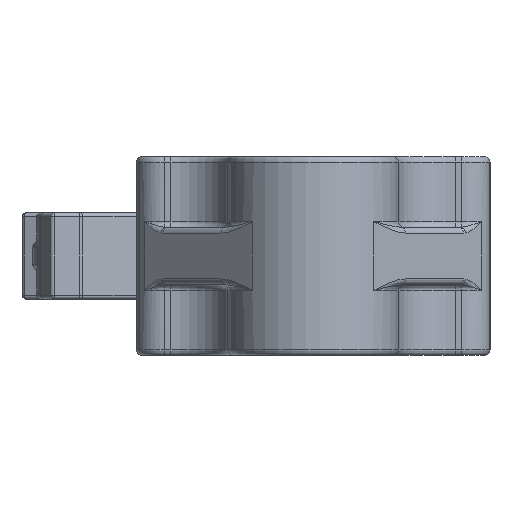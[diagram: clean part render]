
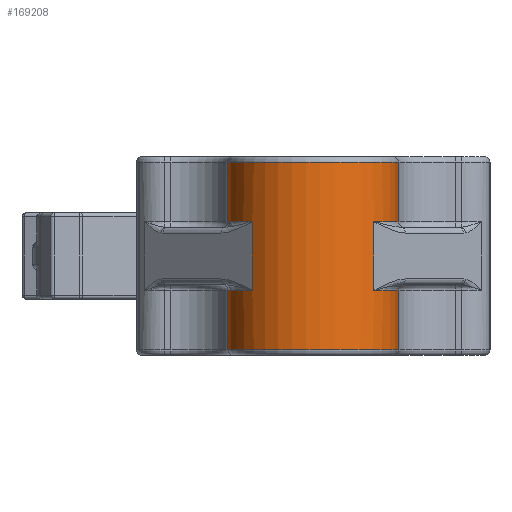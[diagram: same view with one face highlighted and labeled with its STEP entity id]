
A CAD part, left-side view. The second image highlights one B-rep face of the part: STEP entity #169208.
In plain terms, the highlighted cylindrical face has radius 4.5 mm (diameter 9 mm), a partial arc.
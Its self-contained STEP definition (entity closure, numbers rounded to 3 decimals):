
#61316=CARTESIAN_POINT('',(-99.184,-3.18,-1.8));
#61321=DIRECTION('',(0.,0.,1.));
#61322=VECTOR('',#61321,3.6);
#61323=CARTESIAN_POINT('',(-99.184,-3.18,-1.8));
#61324=LINE('',#61323,#61322);
#61522=CARTESIAN_POINT('',(-96.,0.,1.8));
#61523=DIRECTION('',(0.,0.,1.));
#61524=DIRECTION('',(-0.133,0.991,0.));
#61525=AXIS2_PLACEMENT_3D('',#61522,#61523,#61524);
#61530=DIRECTION('',(0.,0.,-1.));
#61531=VECTOR('',#61530,3.1);
#61532=CARTESIAN_POINT('',(-96.6,4.46,4.9));
#61533=LINE('',#61532,#61531);
#61537=CARTESIAN_POINT('',(-96.,0.,4.9));
#61538=DIRECTION('',(0.,0.,1.));
#61539=DIRECTION('',(-0.133,0.991,0.));
#61540=AXIS2_PLACEMENT_3D('',#61537,#61538,#61539);
#61545=DIRECTION('',(0.,0.,-1.));
#61546=VECTOR('',#61545,3.1);
#61547=CARTESIAN_POINT('',(-96.6,-4.46,4.9));
#61548=LINE('',#61547,#61546);
#61552=CARTESIAN_POINT('',(-96.,0.,1.8));
#61553=DIRECTION('',(0.,0.,-1.));
#61554=DIRECTION('',(-0.133,-0.991,0.));
#61555=AXIS2_PLACEMENT_3D('',#61552,#61553,#61554);
#61560=CARTESIAN_POINT('',(-96.,0.,-1.8));
#61561=DIRECTION('',(0.,0.,-1.));
#61562=DIRECTION('',(-0.133,-0.991,0.));
#61563=AXIS2_PLACEMENT_3D('',#61560,#61561,#61562);
#61568=DIRECTION('',(0.,0.,-1.));
#61569=VECTOR('',#61568,3.1);
#61570=CARTESIAN_POINT('',(-96.6,-4.46,-1.8));
#61571=LINE('',#61570,#61569);
#61575=CARTESIAN_POINT('',(-96.,0.,-4.9));
#61576=DIRECTION('',(0.,0.,1.));
#61577=DIRECTION('',(-0.133,0.991,0.));
#61578=AXIS2_PLACEMENT_3D('',#61575,#61576,#61577);
#61583=DIRECTION('',(0.,0.,-1.));
#61584=VECTOR('',#61583,3.1);
#61585=CARTESIAN_POINT('',(-96.6,4.46,-1.8));
#61586=LINE('',#61585,#61584);
#61590=CARTESIAN_POINT('',(-96.,0.,-1.8));
#61591=DIRECTION('',(0.,0.,1.));
#61592=DIRECTION('',(-0.133,0.991,0.));
#61593=AXIS2_PLACEMENT_3D('',#61590,#61591,#61592);
#61637=CARTESIAN_POINT('',(-99.184,3.18,1.8));
#61642=DIRECTION('',(0.,0.,-1.));
#61643=VECTOR('',#61642,3.6);
#61644=CARTESIAN_POINT('',(-99.184,3.18,1.8));
#61645=LINE('',#61644,#61643);
#61735=CARTESIAN_POINT('',(-99.184,3.18,-1.8));
#62388=CARTESIAN_POINT('',(-99.184,-3.18,1.8));
#90325=CARTESIAN_POINT('',(-96.6,-4.46,4.9));
#90326=VERTEX_POINT('',#90325);
#90329=CARTESIAN_POINT('',(-96.6,4.46,4.9));
#90330=VERTEX_POINT('',#90329);
#90385=CARTESIAN_POINT('',(-96.6,-4.46,-4.9));
#90386=VERTEX_POINT('',#90385);
#90389=CARTESIAN_POINT('',(-96.6,4.46,-4.9));
#90390=VERTEX_POINT('',#90389);
#90508=CARTESIAN_POINT('',(-96.6,-4.46,1.8));
#90509=VERTEX_POINT('',#90508);
#90513=CARTESIAN_POINT('',(-96.6,4.46,1.8));
#90515=VERTEX_POINT('',#90513);
#90521=CARTESIAN_POINT('',(-96.6,-4.46,-1.8));
#90523=VERTEX_POINT('',#90521);
#90534=CARTESIAN_POINT('',(-96.6,4.46,-1.8));
#90535=VERTEX_POINT('',#90534);
#90597=VERTEX_POINT('',#62388);
#90599=VERTEX_POINT('',#61316);
#90609=VERTEX_POINT('',#61637);
#90627=VERTEX_POINT('',#61735);
#169180=CARTESIAN_POINT('',(-96.,0.,5.2));
#169181=DIRECTION('',(0.,0.,1.));
#169182=DIRECTION('',(1.,0.,0.));
#169183=AXIS2_PLACEMENT_3D('',#169180,#169181,#169182);
#169184=CYLINDRICAL_SURFACE('',#169183,4.5);
#169186=ORIENTED_EDGE('',*,*,#169185,.F.);
#169188=ORIENTED_EDGE('',*,*,#169187,.F.);
#169190=ORIENTED_EDGE('',*,*,#169189,.T.);
#169192=ORIENTED_EDGE('',*,*,#169191,.T.);
#169194=ORIENTED_EDGE('',*,*,#169193,.T.);
#169195=ORIENTED_EDGE('',*,*,#168821,.F.);
#169197=ORIENTED_EDGE('',*,*,#169196,.F.);
#169198=ORIENTED_EDGE('',*,*,#169067,.T.);
#169199=ORIENTED_EDGE('',*,*,#169164,.F.);
#169201=ORIENTED_EDGE('',*,*,#169200,.F.);
#169203=ORIENTED_EDGE('',*,*,#169202,.T.);
#169205=ORIENTED_EDGE('',*,*,#169204,.F.);
#169206=EDGE_LOOP('',(#169186,#169188,#169190,#169192,#169194,#169195,#169197,
#169198,#169199,#169201,#169203,#169205));
#169207=FACE_OUTER_BOUND('',#169206,.F.);
#61526=CIRCLE('',#61525,4.5);
#61541=CIRCLE('',#61540,4.5);
#61556=CIRCLE('',#61555,4.5);
#61564=CIRCLE('',#61563,4.5);
#61579=CIRCLE('',#61578,4.5);
#61594=CIRCLE('',#61593,4.5);
#168821=EDGE_CURVE('',#90599,#90597,#61324,.T.);
#169067=EDGE_CURVE('',#90523,#90386,#61571,.T.);
#169164=EDGE_CURVE('',#90390,#90386,#61579,.T.);
#169185=EDGE_CURVE('',#90515,#90609,#61526,.T.);
#169187=EDGE_CURVE('',#90330,#90515,#61533,.T.);
#169189=EDGE_CURVE('',#90330,#90326,#61541,.T.);
#169191=EDGE_CURVE('',#90326,#90509,#61548,.T.);
#169193=EDGE_CURVE('',#90509,#90597,#61556,.T.);
#169196=EDGE_CURVE('',#90523,#90599,#61564,.T.);
#169200=EDGE_CURVE('',#90535,#90390,#61586,.T.);
#169202=EDGE_CURVE('',#90535,#90627,#61594,.T.);
#169204=EDGE_CURVE('',#90609,#90627,#61645,.T.);
#169208=ADVANCED_FACE('',(#169207),#169184,.T.);
